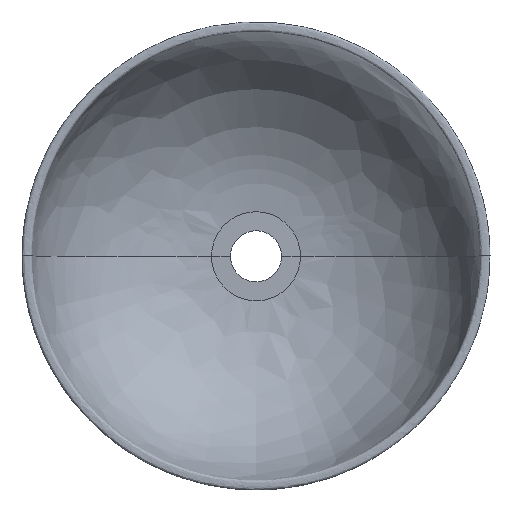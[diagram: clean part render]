
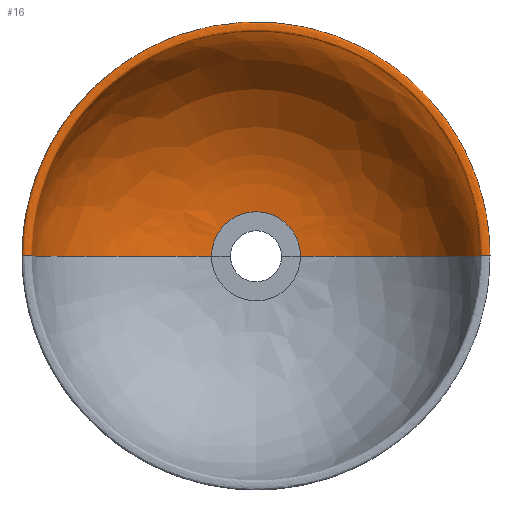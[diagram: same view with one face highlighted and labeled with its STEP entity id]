
A CAD part, top view. The second image highlights one B-rep face of the part: STEP entity #16.
In plain terms, the highlighted free-form (B-spline) face has degree [2, 2] with [11, 5] control points.
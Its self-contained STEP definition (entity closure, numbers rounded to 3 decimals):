
#16=ADVANCED_FACE('',(#28),#160,.T.);
#28=FACE_OUTER_BOUND('',#40,.T.);
#40=EDGE_LOOP('',(#55,#56,#57,#58));
#55=ORIENTED_EDGE('',*,*,#99,.F.);
#56=ORIENTED_EDGE('',*,*,#100,.T.);
#57=ORIENTED_EDGE('',*,*,#106,.T.);
#58=ORIENTED_EDGE('',*,*,#114,.F.);
#99=EDGE_CURVE('',#147,#154,#129,.T.);
#100=EDGE_CURVE('',#147,#152,#130,.T.);
#106=EDGE_CURVE('',#152,#155,#133,.T.);
#114=EDGE_CURVE('',#154,#155,#141,.T.);
#129=(
BOUNDED_CURVE()
B_SPLINE_CURVE(2,(#519,#520,#521,#522,#523),.UNSPECIFIED.,.F.,.F.)
B_SPLINE_CURVE_WITH_KNOTS((3,2,3),(0.,1.571,3.142),
 .UNSPECIFIED.)
CURVE()
GEOMETRIC_REPRESENTATION_ITEM()
RATIONAL_B_SPLINE_CURVE((1.,0.707,1.,0.707,1.))
REPRESENTATION_ITEM('')
);
#130=(
BOUNDED_CURVE()
B_SPLINE_CURVE(2,(#524,#525,#526,#527,#528,#529,#530,#531,#532,#533,#534),
 .UNSPECIFIED.,.F.,.F.)
B_SPLINE_CURVE_WITH_KNOTS((3,2,2,2,2,3),(61.894,62.152,
62.41,62.796,63.242,90.029),
 .UNSPECIFIED.)
CURVE()
GEOMETRIC_REPRESENTATION_ITEM()
RATIONAL_B_SPLINE_CURVE((1.,0.909,1.,0.909,1.,1.,
1.,0.736,1.,0.755,1.))
REPRESENTATION_ITEM('')
);
#133=(
BOUNDED_CURVE()
B_SPLINE_CURVE(2,(#555,#556,#557,#558,#559),.UNSPECIFIED.,.F.,.F.)
B_SPLINE_CURVE_WITH_KNOTS((3,2,3),(0.,1.571,3.142),
 .UNSPECIFIED.)
CURVE()
GEOMETRIC_REPRESENTATION_ITEM()
RATIONAL_B_SPLINE_CURVE((1.,0.707,1.,0.707,1.))
REPRESENTATION_ITEM('')
);
#141=(
BOUNDED_CURVE()
B_SPLINE_CURVE(2,(#597,#598,#599,#600,#601,#602,#603,#604,#605,#606,#607),
 .UNSPECIFIED.,.F.,.F.)
B_SPLINE_CURVE_WITH_KNOTS((3,2,2,2,2,3),(61.894,62.152,
62.41,62.796,63.242,90.029),
 .UNSPECIFIED.)
CURVE()
GEOMETRIC_REPRESENTATION_ITEM()
RATIONAL_B_SPLINE_CURVE((1.,0.909,1.,0.909,1.,1.,
1.,0.736,1.,0.755,1.))
REPRESENTATION_ITEM('')
);
#147=VERTEX_POINT('',#507);
#152=VERTEX_POINT('',#512);
#154=VERTEX_POINT('',#514);
#155=VERTEX_POINT('',#515);
#160=(
BOUNDED_SURFACE()
B_SPLINE_SURFACE(2,2,((#232,#233,#234,#235,#236),(#237,#238,#239,#240,#241),
(#242,#243,#244,#245,#246),(#247,#248,#249,#250,#251),(#252,#253,#254,#255,
#256),(#257,#258,#259,#260,#261),(#262,#263,#264,#265,#266),(#267,#268,
#269,#270,#271),(#272,#273,#274,#275,#276),(#277,#278,#279,#280,#281),(#282,
#283,#284,#285,#286)),.UNSPECIFIED.,.F.,.F.,.F.)
B_SPLINE_SURFACE_WITH_KNOTS((3,2,2,2,2,3),(3,2,3),(61.894,62.152,
62.41,62.796,63.242,90.029),(0.,
1.571,3.142),.UNSPECIFIED.)
GEOMETRIC_REPRESENTATION_ITEM()
RATIONAL_B_SPLINE_SURFACE(((1.,0.707,1.,0.707,1.),
(0.909,0.643,0.909,0.643,
0.909),(1.,0.707,1.,0.707,1.),(0.909,
0.643,0.909,0.643,0.909),
(1.,0.707,1.,0.707,1.),(1.,0.707,1.,
0.707,1.),(1.,0.707,1.,0.707,1.),(0.736,
0.521,0.736,0.521,0.736),
(1.,0.707,1.,0.707,1.),(0.755,0.534,
0.755,0.534,0.755),(1.,0.707,
1.,0.707,1.)))
REPRESENTATION_ITEM('')
SURFACE()
);
#232=CARTESIAN_POINT('',(-19.291,-8.893,19.056));
#233=CARTESIAN_POINT('',(-19.291,14.058,19.056));
#234=CARTESIAN_POINT('',(3.66,14.058,19.056));
#235=CARTESIAN_POINT('',(26.611,14.058,19.056));
#236=CARTESIAN_POINT('',(26.611,-8.893,19.056));
#237=CARTESIAN_POINT('',(-19.312,-8.893,19.192));
#238=CARTESIAN_POINT('',(-19.312,14.078,19.192));
#239=CARTESIAN_POINT('',(3.66,14.078,19.192));
#240=CARTESIAN_POINT('',(26.631,14.078,19.192));
#241=CARTESIAN_POINT('',(26.631,-8.893,19.192));
#242=CARTESIAN_POINT('',(-19.222,-8.893,19.296));
#243=CARTESIAN_POINT('',(-19.222,13.988,19.296));
#244=CARTESIAN_POINT('',(3.66,13.988,19.296));
#245=CARTESIAN_POINT('',(26.541,13.988,19.296));
#246=CARTESIAN_POINT('',(26.541,-8.893,19.296));
#247=CARTESIAN_POINT('',(-19.132,-8.893,19.4));
#248=CARTESIAN_POINT('',(-19.132,13.899,19.4));
#249=CARTESIAN_POINT('',(3.66,13.899,19.4));
#250=CARTESIAN_POINT('',(26.452,13.899,19.4));
#251=CARTESIAN_POINT('',(26.452,-8.893,19.4));
#252=CARTESIAN_POINT('',(-18.995,-8.893,19.4));
#253=CARTESIAN_POINT('',(-18.995,13.761,19.4));
#254=CARTESIAN_POINT('',(3.66,13.761,19.4));
#255=CARTESIAN_POINT('',(26.314,13.761,19.4));
#256=CARTESIAN_POINT('',(26.314,-8.893,19.4));
#257=CARTESIAN_POINT('',(-18.802,-8.893,19.4));
#258=CARTESIAN_POINT('',(-18.802,13.568,19.4));
#259=CARTESIAN_POINT('',(3.66,13.568,19.4));
#260=CARTESIAN_POINT('',(26.121,13.568,19.4));
#261=CARTESIAN_POINT('',(26.121,-8.893,19.4));
#262=CARTESIAN_POINT('',(-18.609,-8.893,19.4));
#263=CARTESIAN_POINT('',(-18.609,13.375,19.4));
#264=CARTESIAN_POINT('',(3.66,13.375,19.4));
#265=CARTESIAN_POINT('',(25.928,13.375,19.4));
#266=CARTESIAN_POINT('',(25.928,-8.893,19.4));
#267=CARTESIAN_POINT('',(-18.333,-8.893,19.4));
#268=CARTESIAN_POINT('',(-18.333,13.099,19.4));
#269=CARTESIAN_POINT('',(3.66,13.099,19.4));
#270=CARTESIAN_POINT('',(25.652,13.099,19.4));
#271=CARTESIAN_POINT('',(25.652,-8.893,19.4));
#272=CARTESIAN_POINT('',(-18.31,-8.893,19.125));
#273=CARTESIAN_POINT('',(-18.31,13.076,19.125));
#274=CARTESIAN_POINT('',(3.66,13.076,19.125));
#275=CARTESIAN_POINT('',(25.629,13.076,19.125));
#276=CARTESIAN_POINT('',(25.629,-8.893,19.125));
#277=CARTESIAN_POINT('',(-16.943,-8.893,2.917));
#278=CARTESIAN_POINT('',(-16.943,11.709,2.917));
#279=CARTESIAN_POINT('',(3.66,11.709,2.917));
#280=CARTESIAN_POINT('',(24.262,11.709,2.917));
#281=CARTESIAN_POINT('',(24.262,-8.893,2.917));
#282=CARTESIAN_POINT('',(-0.703,-8.893,2.));
#283=CARTESIAN_POINT('',(-0.703,-4.531,2.));
#284=CARTESIAN_POINT('',(3.66,-4.531,2.));
#285=CARTESIAN_POINT('',(8.022,-4.531,2.));
#286=CARTESIAN_POINT('',(8.022,-8.893,2.));
#507=CARTESIAN_POINT('',(-19.291,-8.893,19.056));
#512=CARTESIAN_POINT('',(-0.703,-8.893,2.));
#514=CARTESIAN_POINT('',(26.611,-8.893,19.056));
#515=CARTESIAN_POINT('',(8.022,-8.893,2.));
#519=CARTESIAN_POINT('',(-19.291,-8.893,19.056));
#520=CARTESIAN_POINT('',(-19.291,14.058,19.056));
#521=CARTESIAN_POINT('',(3.66,14.058,19.056));
#522=CARTESIAN_POINT('',(26.611,14.058,19.056));
#523=CARTESIAN_POINT('',(26.611,-8.893,19.056));
#524=CARTESIAN_POINT('',(-19.291,-8.893,19.056));
#525=CARTESIAN_POINT('',(-19.312,-8.893,19.192));
#526=CARTESIAN_POINT('',(-19.222,-8.893,19.296));
#527=CARTESIAN_POINT('',(-19.132,-8.893,19.4));
#528=CARTESIAN_POINT('',(-18.995,-8.893,19.4));
#529=CARTESIAN_POINT('',(-18.802,-8.893,19.4));
#530=CARTESIAN_POINT('',(-18.609,-8.893,19.4));
#531=CARTESIAN_POINT('',(-18.333,-8.893,19.4));
#532=CARTESIAN_POINT('',(-18.31,-8.893,19.125));
#533=CARTESIAN_POINT('',(-16.943,-8.893,2.917));
#534=CARTESIAN_POINT('',(-0.703,-8.893,2.));
#555=CARTESIAN_POINT('',(-0.703,-8.893,2.));
#556=CARTESIAN_POINT('',(-0.703,-4.531,2.));
#557=CARTESIAN_POINT('',(3.66,-4.531,2.));
#558=CARTESIAN_POINT('',(8.022,-4.531,2.));
#559=CARTESIAN_POINT('',(8.022,-8.893,2.));
#597=CARTESIAN_POINT('',(26.611,-8.893,19.056));
#598=CARTESIAN_POINT('',(26.631,-8.893,19.192));
#599=CARTESIAN_POINT('',(26.541,-8.893,19.296));
#600=CARTESIAN_POINT('',(26.452,-8.893,19.4));
#601=CARTESIAN_POINT('',(26.314,-8.893,19.4));
#602=CARTESIAN_POINT('',(26.121,-8.893,19.4));
#603=CARTESIAN_POINT('',(25.928,-8.893,19.4));
#604=CARTESIAN_POINT('',(25.652,-8.893,19.4));
#605=CARTESIAN_POINT('',(25.629,-8.893,19.125));
#606=CARTESIAN_POINT('',(24.262,-8.893,2.917));
#607=CARTESIAN_POINT('',(8.022,-8.893,2.));
